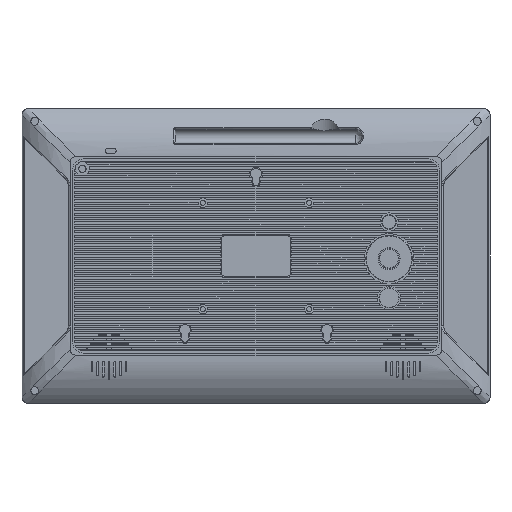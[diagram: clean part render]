
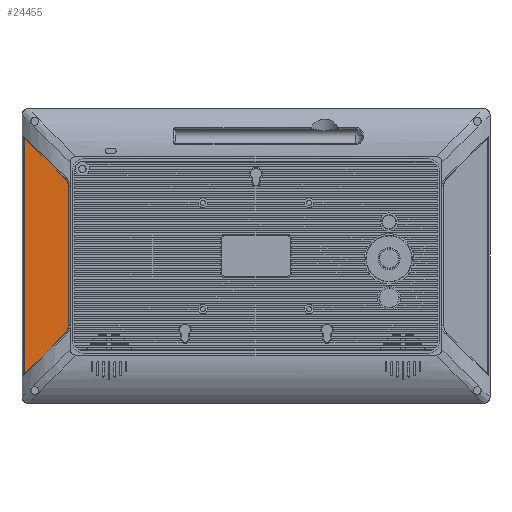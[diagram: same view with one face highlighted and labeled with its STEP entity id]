
A CAD part, top view. The second image highlights one B-rep face of the part: STEP entity #24455.
In plain terms, the highlighted planar face has unit normal (0, 0, 1).
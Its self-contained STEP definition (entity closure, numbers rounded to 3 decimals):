
#7912=DIRECTION('',(0.,-1.,0.));
#7913=VECTOR('',#7912,98.443);
#7914=CARTESIAN_POINT('',(-132.282,49.222,1.3));
#7915=LINE('',#7914,#7913);
#7920=CARTESIAN_POINT('',(-134.332,-54.17,1.3));
#7921=CARTESIAN_POINT('',(-133.648,-53.486,1.3));
#7922=CARTESIAN_POINT('',(-132.664,-51.962,1.3));
#7923=CARTESIAN_POINT('',(-132.282,-50.188,1.3));
#7924=CARTESIAN_POINT('',(-132.282,-49.222,1.3));
#8092=CARTESIAN_POINT('',(-134.332,54.17,1.3));
#8093=CARTESIAN_POINT('',(-133.648,53.486,1.3));
#8094=CARTESIAN_POINT('',(-132.664,51.962,1.3));
#8095=CARTESIAN_POINT('',(-132.282,50.188,1.3));
#8096=CARTESIAN_POINT('',(-132.282,49.222,1.3));
#8102=CARTESIAN_POINT('',(-163.267,83.152,1.3));
#8103=CARTESIAN_POINT('',(-163.238,83.113,1.3));
#8104=CARTESIAN_POINT('',(-163.178,83.036,1.3));
#8105=CARTESIAN_POINT('',(-163.076,82.918,1.3));
#8106=CARTESIAN_POINT('',(-163.013,82.851,1.3));
#8107=CARTESIAN_POINT('',(-162.976,82.814,1.3));
#8109=DIRECTION('',(0.707,-0.707,0.));
#8110=VECTOR('',#8109,40.51);
#8111=CARTESIAN_POINT('',(-162.976,82.814,1.3));
#8112=LINE('',#8111,#8110);
#8113=DIRECTION('',(0.707,0.707,0.));
#8114=VECTOR('',#8113,40.51);
#8115=CARTESIAN_POINT('',(-162.976,-82.814,1.3));
#8116=LINE('',#8115,#8114);
#8117=CARTESIAN_POINT('',(-163.267,-83.152,1.3));
#8118=CARTESIAN_POINT('',(-163.238,-83.113,1.3));
#8119=CARTESIAN_POINT('',(-163.178,-83.036,1.3));
#8120=CARTESIAN_POINT('',(-163.076,-82.918,1.3));
#8121=CARTESIAN_POINT('',(-163.013,-82.851,1.3));
#8122=CARTESIAN_POINT('',(-162.976,-82.814,1.3));
#8124=DIRECTION('',(0.,-1.,0.));
#8125=VECTOR('',#8124,166.304);
#8126=CARTESIAN_POINT('',(-163.267,83.152,1.3));
#8127=LINE('',#8126,#8125);
#8149=CARTESIAN_POINT('',(-162.976,82.814,1.3));
#8162=CARTESIAN_POINT('',(-162.976,-82.814,1.3));
#10259=VERTEX_POINT('',#8092);
#10260=VERTEX_POINT('',#8096);
#10481=VERTEX_POINT('',#7920);
#10482=VERTEX_POINT('',#7924);
#12339=VERTEX_POINT('',#8149);
#12340=VERTEX_POINT('',#8102);
#12349=VERTEX_POINT('',#8162);
#12350=VERTEX_POINT('',#8117);
#24435=CARTESIAN_POINT('',(-129.782,0.,1.3));
#24436=DIRECTION('',(0.,0.,1.));
#24437=DIRECTION('',(-1.,0.,0.));
#24438=AXIS2_PLACEMENT_3D('',#24435,#24436,#24437);
#24439=PLANE('',#24438);
#24441=ORIENTED_EDGE('',*,*,#24440,.T.);
#24443=ORIENTED_EDGE('',*,*,#24442,.T.);
#24444=ORIENTED_EDGE('',*,*,#24428,.T.);
#24445=ORIENTED_EDGE('',*,*,#24149,.T.);
#24446=ORIENTED_EDGE('',*,*,#24165,.F.);
#24448=ORIENTED_EDGE('',*,*,#24447,.F.);
#24450=ORIENTED_EDGE('',*,*,#24449,.F.);
#24452=ORIENTED_EDGE('',*,*,#24451,.F.);
#24453=EDGE_LOOP('',(#24441,#24443,#24444,#24445,#24446,#24448,#24450,#24452));
#24454=FACE_OUTER_BOUND('',#24453,.F.);
#24455=ADVANCED_FACE('',(#24454),#24439,.T.);
#7925=B_SPLINE_CURVE_WITH_KNOTS('',3,(#7920,#7921,#7922,#7923,#7924),
.UNSPECIFIED.,.F.,.F.,(4,1,4),(0.,0.5,1.),.UNSPECIFIED.);
#8097=B_SPLINE_CURVE_WITH_KNOTS('',3,(#8092,#8093,#8094,#8095,#8096),
.UNSPECIFIED.,.F.,.F.,(4,1,4),(0.,0.5,1.),.UNSPECIFIED.);
#8108=B_SPLINE_CURVE_WITH_KNOTS('',3,(#8102,#8103,#8104,#8105,#8106,#8107),
.UNSPECIFIED.,.F.,.F.,(4,1,1,4),(0.,0.333,0.667,1.),
.UNSPECIFIED.);
#8123=B_SPLINE_CURVE_WITH_KNOTS('',3,(#8117,#8118,#8119,#8120,#8121,#8122),
.UNSPECIFIED.,.F.,.F.,(4,1,1,4),(0.,0.333,0.667,1.),
.UNSPECIFIED.);
#24149=EDGE_CURVE('',#10260,#10482,#7915,.T.);
#24165=EDGE_CURVE('',#10481,#10482,#7925,.T.);
#24428=EDGE_CURVE('',#10259,#10260,#8097,.T.);
#24440=EDGE_CURVE('',#12340,#12339,#8108,.T.);
#24442=EDGE_CURVE('',#12339,#10259,#8112,.T.);
#24447=EDGE_CURVE('',#12349,#10481,#8116,.T.);
#24449=EDGE_CURVE('',#12350,#12349,#8123,.T.);
#24451=EDGE_CURVE('',#12340,#12350,#8127,.T.);
